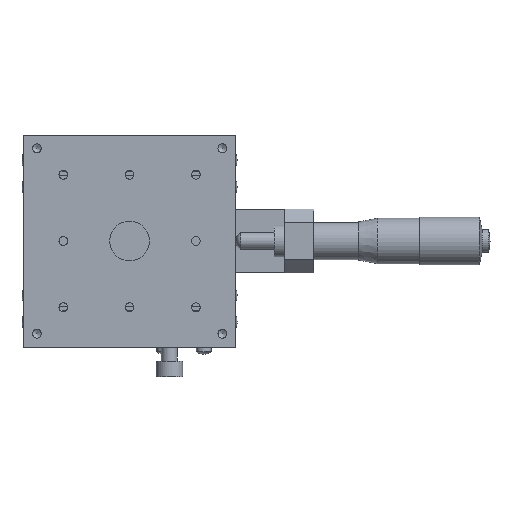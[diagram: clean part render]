
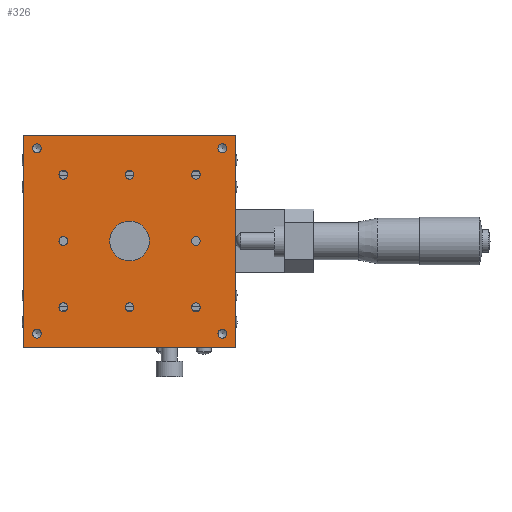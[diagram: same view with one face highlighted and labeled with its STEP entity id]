
A CAD part, top view. The second image highlights one B-rep face of the part: STEP entity #326.
In plain terms, the highlighted planar face has unit normal (0, 0, 1).
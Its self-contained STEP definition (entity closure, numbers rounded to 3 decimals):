
#326 = ADVANCED_FACE( '', ( #789, #790, #791, #792, #793, #794, #795, #796, #797, #798, #799, #800, #801, #802 ), #803, .T. );
#789 = FACE_BOUND( '', #1452, .T. );
#790 = FACE_BOUND( '', #1453, .T. );
#791 = FACE_BOUND( '', #1454, .T. );
#792 = FACE_BOUND( '', #1455, .T. );
#793 = FACE_BOUND( '', #1456, .T. );
#794 = FACE_BOUND( '', #1457, .T. );
#795 = FACE_BOUND( '', #1458, .T. );
#796 = FACE_BOUND( '', #1459, .T. );
#797 = FACE_BOUND( '', #1460, .T. );
#798 = FACE_BOUND( '', #1461, .T. );
#799 = FACE_BOUND( '', #1462, .T. );
#800 = FACE_BOUND( '', #1463, .T. );
#801 = FACE_OUTER_BOUND( '', #1464, .T. );
#802 = FACE_BOUND( '', #1465, .T. );
#803 = PLANE( '', #1466 );
#1452 = EDGE_LOOP( '', ( #2369 ) );
#1453 = EDGE_LOOP( '', ( #2370 ) );
#1454 = EDGE_LOOP( '', ( #2371 ) );
#1455 = EDGE_LOOP( '', ( #2372 ) );
#1456 = EDGE_LOOP( '', ( #2373 ) );
#1457 = EDGE_LOOP( '', ( #2374 ) );
#1458 = EDGE_LOOP( '', ( #2375 ) );
#1459 = EDGE_LOOP( '', ( #2376 ) );
#1460 = EDGE_LOOP( '', ( #2377 ) );
#1461 = EDGE_LOOP( '', ( #2378 ) );
#1462 = EDGE_LOOP( '', ( #2379 ) );
#1463 = EDGE_LOOP( '', ( #2380 ) );
#1464 = EDGE_LOOP( '', ( #2381, #2382, #2383, #2384 ) );
#1465 = EDGE_LOOP( '', ( #2385 ) );
#1466 = AXIS2_PLACEMENT_3D( '', #2386, #2387, #2388 );
#2369 = ORIENTED_EDGE( '', *, *, #3567, .T. );
#2370 = ORIENTED_EDGE( '', *, *, #3619, .T. );
#2371 = ORIENTED_EDGE( '', *, *, #3672, .T. );
#2372 = ORIENTED_EDGE( '', *, *, #3527, .T. );
#2373 = ORIENTED_EDGE( '', *, *, #3530, .T. );
#2374 = ORIENTED_EDGE( '', *, *, #3673, .T. );
#2375 = ORIENTED_EDGE( '', *, *, #3674, .T. );
#2376 = ORIENTED_EDGE( '', *, *, #3571, .T. );
#2377 = ORIENTED_EDGE( '', *, *, #3675, .T. );
#2378 = ORIENTED_EDGE( '', *, *, #3676, .T. );
#2379 = ORIENTED_EDGE( '', *, *, #3599, .T. );
#2380 = ORIENTED_EDGE( '', *, *, #3479, .T. );
#2381 = ORIENTED_EDGE( '', *, *, #3430, .F. );
#2382 = ORIENTED_EDGE( '', *, *, #3677, .F. );
#2383 = ORIENTED_EDGE( '', *, *, #3678, .F. );
#2384 = ORIENTED_EDGE( '', *, *, #3499, .F. );
#2385 = ORIENTED_EDGE( '', *, *, #3679, .T. );
#2386 = CARTESIAN_POINT( '', ( 0., 0., 20. ) );
#2387 = DIRECTION( '', ( 0., 0., 1. ) );
#2388 = DIRECTION( '', ( 0., 1., 0. ) );
#3430 = EDGE_CURVE( '', #4013, #4015, #4016, .T. );
#3479 = EDGE_CURVE( '', #4101, #4101, #4102, .T. );
#3499 = EDGE_CURVE( '', #4015, #4134, #4135, .T. );
#3527 = EDGE_CURVE( '', #4184, #4184, #4185, .T. );
#3530 = EDGE_CURVE( '', #4189, #4189, #4190, .T. );
#3567 = EDGE_CURVE( '', #4254, #4254, #4255, .T. );
#3571 = EDGE_CURVE( '', #4259, #4259, #4260, .T. );
#3599 = EDGE_CURVE( '', #4305, #4305, #4306, .T. );
#3619 = EDGE_CURVE( '', #4342, #4342, #4343, .T. );
#3672 = EDGE_CURVE( '', #4422, #4422, #4423, .T. );
#3673 = EDGE_CURVE( '', #4424, #4424, #4425, .T. );
#3674 = EDGE_CURVE( '', #4426, #4426, #4427, .T. );
#3675 = EDGE_CURVE( '', #4428, #4428, #4429, .T. );
#3676 = EDGE_CURVE( '', #4430, #4430, #4431, .T. );
#3677 = EDGE_CURVE( '', #4432, #4013, #4433, .T. );
#3678 = EDGE_CURVE( '', #4134, #4432, #4434, .T. );
#3679 = EDGE_CURVE( '', #4435, #4435, #4436, .F. );
#4013 = VERTEX_POINT( '', #4868 );
#4015 = VERTEX_POINT( '', #4871 );
#4016 = LINE( '', #4872, #4873 );
#4101 = VERTEX_POINT( '', #4995 );
#4102 = CIRCLE( '', #4996, 1.65 );
#4134 = VERTEX_POINT( '', #5037 );
#4135 = LINE( '', #5038, #5039 );
#4184 = VERTEX_POINT( '', #5108 );
#4185 = CIRCLE( '', #5109, 1.65 );
#4189 = VERTEX_POINT( '', #5113 );
#4190 = CIRCLE( '', #5114, 1.65 );
#4254 = VERTEX_POINT( '', #5202 );
#4255 = CIRCLE( '', #5203, 1.65 );
#4259 = VERTEX_POINT( '', #5207 );
#4260 = CIRCLE( '', #5208, 1.65 );
#4305 = VERTEX_POINT( '', #5271 );
#4306 = CIRCLE( '', #5272, 1.65 );
#4342 = VERTEX_POINT( '', #5321 );
#4343 = CIRCLE( '', #5322, 1.65 );
#4422 = VERTEX_POINT( '', #5448 );
#4423 = CIRCLE( '', #5449, 1.65 );
#4424 = VERTEX_POINT( '', #5450 );
#4425 = CIRCLE( '', #5451, 1.65 );
#4426 = VERTEX_POINT( '', #5452 );
#4427 = CIRCLE( '', #5453, 1.65 );
#4428 = VERTEX_POINT( '', #5454 );
#4429 = CIRCLE( '', #5455, 1.65 );
#4430 = VERTEX_POINT( '', #5456 );
#4431 = CIRCLE( '', #5457, 1.65 );
#4432 = VERTEX_POINT( '', #5458 );
#4433 = LINE( '', #5459, #5460 );
#4434 = LINE( '', #5461, #5462 );
#4435 = VERTEX_POINT( '', #5463 );
#4436 = CIRCLE( '', #5464, 7.5 );
#4868 = CARTESIAN_POINT( '', ( -40., 40., 20. ) );
#4871 = CARTESIAN_POINT( '', ( 40., 40., 20. ) );
#4872 = CARTESIAN_POINT( '', ( 0., 40., 20. ) );
#4873 = VECTOR( '', #5998, 1000. );
#4995 = CARTESIAN_POINT( '', ( -35., -36.65, 20. ) );
#4996 = AXIS2_PLACEMENT_3D( '', #6063, #6064, #6065 );
#5037 = CARTESIAN_POINT( '', ( 40., -40., 20. ) );
#5038 = CARTESIAN_POINT( '', ( 40., 0., 20. ) );
#5039 = VECTOR( '', #6090, 1000. );
#5108 = CARTESIAN_POINT( '', ( 25., 23.35, 20. ) );
#5109 = AXIS2_PLACEMENT_3D( '', #6120, #6121, #6122 );
#5113 = CARTESIAN_POINT( '', ( 25., -1.65, 20. ) );
#5114 = AXIS2_PLACEMENT_3D( '', #6126, #6127, #6128 );
#5202 = CARTESIAN_POINT( '', ( -25., -1.65, 20. ) );
#5203 = AXIS2_PLACEMENT_3D( '', #6168, #6169, #6170 );
#5207 = CARTESIAN_POINT( '', ( -25., -26.65, 20. ) );
#5208 = AXIS2_PLACEMENT_3D( '', #6177, #6178, #6179 );
#5271 = CARTESIAN_POINT( '', ( 35., -36.65, 20. ) );
#5272 = AXIS2_PLACEMENT_3D( '', #6207, #6208, #6209 );
#5321 = CARTESIAN_POINT( '', ( -25., 23.35, 20. ) );
#5322 = AXIS2_PLACEMENT_3D( '', #6235, #6236, #6237 );
#5448 = CARTESIAN_POINT( '', ( 0., 23.35, 20. ) );
#5449 = AXIS2_PLACEMENT_3D( '', #6282, #6283, #6284 );
#5450 = CARTESIAN_POINT( '', ( 25., -26.65, 20. ) );
#5451 = AXIS2_PLACEMENT_3D( '', #6285, #6286, #6287 );
#5452 = CARTESIAN_POINT( '', ( 0., -26.65, 20. ) );
#5453 = AXIS2_PLACEMENT_3D( '', #6288, #6289, #6290 );
#5454 = CARTESIAN_POINT( '', ( -35., 33.35, 20. ) );
#5455 = AXIS2_PLACEMENT_3D( '', #6291, #6292, #6293 );
#5456 = CARTESIAN_POINT( '', ( 35., 33.35, 20. ) );
#5457 = AXIS2_PLACEMENT_3D( '', #6294, #6295, #6296 );
#5458 = CARTESIAN_POINT( '', ( -40., -40., 20. ) );
#5459 = CARTESIAN_POINT( '', ( -40., 0., 20. ) );
#5460 = VECTOR( '', #6297, 1000. );
#5461 = CARTESIAN_POINT( '', ( 0., -40., 20. ) );
#5462 = VECTOR( '', #6298, 1000. );
#5463 = CARTESIAN_POINT( '', ( 0., 7.5, 20. ) );
#5464 = AXIS2_PLACEMENT_3D( '', #6299, #6300, #6301 );
#5998 = DIRECTION( '', ( 1., 0., 0. ) );
#6063 = CARTESIAN_POINT( '', ( -35., -35., 20. ) );
#6064 = DIRECTION( '', ( 0., 0., -1. ) );
#6065 = DIRECTION( '', ( 0., -1., 0. ) );
#6090 = DIRECTION( '', ( 0., -1., 0. ) );
#6120 = CARTESIAN_POINT( '', ( 25., 25., 20. ) );
#6121 = DIRECTION( '', ( 0., 0., -1. ) );
#6122 = DIRECTION( '', ( 0., -1., 0. ) );
#6126 = CARTESIAN_POINT( '', ( 25., 0., 20. ) );
#6127 = DIRECTION( '', ( 0., 0., -1. ) );
#6128 = DIRECTION( '', ( 0., -1., 0. ) );
#6168 = CARTESIAN_POINT( '', ( -25., 0., 20. ) );
#6169 = DIRECTION( '', ( 0., 0., -1. ) );
#6170 = DIRECTION( '', ( 0., -1., 0. ) );
#6177 = CARTESIAN_POINT( '', ( -25., -25., 20. ) );
#6178 = DIRECTION( '', ( 0., 0., -1. ) );
#6179 = DIRECTION( '', ( 0., -1., 0. ) );
#6207 = CARTESIAN_POINT( '', ( 35., -35., 20. ) );
#6208 = DIRECTION( '', ( 0., 0., -1. ) );
#6209 = DIRECTION( '', ( 0., -1., 0. ) );
#6235 = CARTESIAN_POINT( '', ( -25., 25., 20. ) );
#6236 = DIRECTION( '', ( 0., 0., -1. ) );
#6237 = DIRECTION( '', ( 0., -1., 0. ) );
#6282 = CARTESIAN_POINT( '', ( 0., 25., 20. ) );
#6283 = DIRECTION( '', ( 0., 0., -1. ) );
#6284 = DIRECTION( '', ( 0., -1., 0. ) );
#6285 = CARTESIAN_POINT( '', ( 25., -25., 20. ) );
#6286 = DIRECTION( '', ( 0., 0., -1. ) );
#6287 = DIRECTION( '', ( 0., -1., 0. ) );
#6288 = CARTESIAN_POINT( '', ( 0., -25., 20. ) );
#6289 = DIRECTION( '', ( 0., 0., -1. ) );
#6290 = DIRECTION( '', ( 0., -1., 0. ) );
#6291 = CARTESIAN_POINT( '', ( -35., 35., 20. ) );
#6292 = DIRECTION( '', ( 0., 0., -1. ) );
#6293 = DIRECTION( '', ( 0., -1., 0. ) );
#6294 = CARTESIAN_POINT( '', ( 35., 35., 20. ) );
#6295 = DIRECTION( '', ( 0., 0., -1. ) );
#6296 = DIRECTION( '', ( 0., -1., 0. ) );
#6297 = DIRECTION( '', ( 0., 1., 0. ) );
#6298 = DIRECTION( '', ( -1., 0., 0. ) );
#6299 = CARTESIAN_POINT( '', ( 0., 0., 20. ) );
#6300 = DIRECTION( '', ( 0., 0., 1. ) );
#6301 = DIRECTION( '', ( 0., 1., 0. ) );
